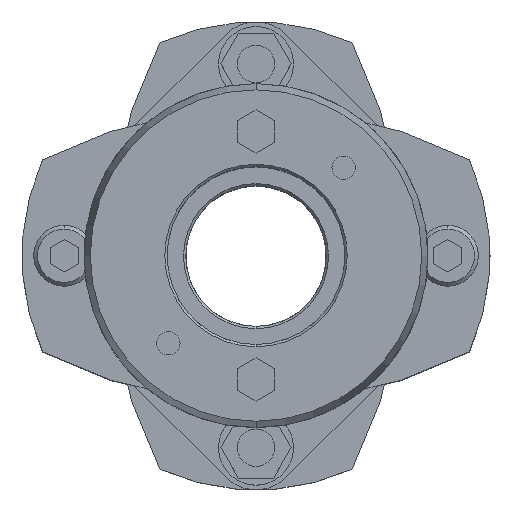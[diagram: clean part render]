
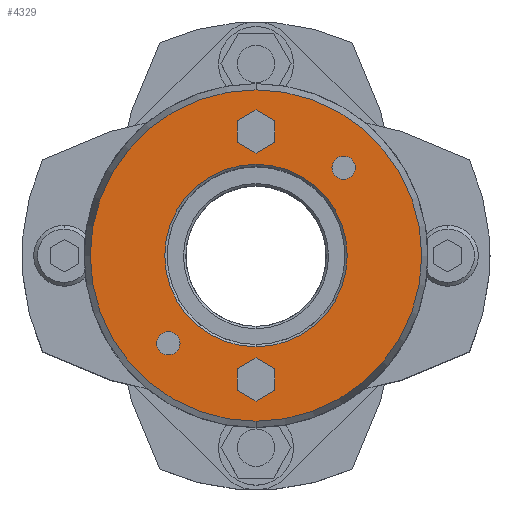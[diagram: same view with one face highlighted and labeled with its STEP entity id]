
A CAD part, top view. The second image highlights one B-rep face of the part: STEP entity #4329.
In plain terms, the highlighted planar face has unit normal (0, 0, 1).
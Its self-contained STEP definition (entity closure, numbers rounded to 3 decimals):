
#2291=CARTESIAN_POINT('',(0.,19.5,55.5));
#2292=VERTEX_POINT('',#2291);
#2308=CARTESIAN_POINT('',(0.,-19.5,55.5));
#2309=VERTEX_POINT('',#2308);
#2316=CARTESIAN_POINT('',(0.,0.,55.5));
#2317=DIRECTION('',(0.0,0.0,1.0));
#2318=DIRECTION('',(0.0,1.0,0.0));
#2319=AXIS2_PLACEMENT_3D('',#2316,#2317,#2318);
#2320=CIRCLE('',#2319,19.5);
#2321=EDGE_CURVE('',#2309,#2292,#2320,.T.);
#2437=CARTESIAN_POINT('',(0.,-35.41,55.5));
#2438=VERTEX_POINT('',#2437);
#2447=CARTESIAN_POINT('',(0.,35.41,55.5));
#2448=VERTEX_POINT('',#2447);
#2449=CARTESIAN_POINT('',(0.,0.,55.5));
#2450=DIRECTION('',(0.0,0.0,-1.0));
#2451=DIRECTION('',(0.0,-1.0,0.0));
#2452=AXIS2_PLACEMENT_3D('',#2449,#2450,#2451);
#2453=CIRCLE('',#2452,35.41);
#2454=EDGE_CURVE('',#2438,#2448,#2453,.T.);
#2623=CARTESIAN_POINT('',(18.738,21.238,55.5));
#2624=VERTEX_POINT('',#2623);
#2640=CARTESIAN_POINT('',(18.738,16.238,55.5));
#2641=VERTEX_POINT('',#2640);
#2648=CARTESIAN_POINT('',(18.738,18.738,55.5));
#2649=DIRECTION('',(0.0,0.0,-1.0));
#2650=DIRECTION('',(0.0,1.0,0.0));
#2651=AXIS2_PLACEMENT_3D('',#2648,#2649,#2650);
#2652=CIRCLE('',#2651,2.5);
#2653=EDGE_CURVE('',#2624,#2641,#2652,.T.);
#2665=CARTESIAN_POINT('',(-18.738,-16.238,55.5));
#2666=VERTEX_POINT('',#2665);
#2682=CARTESIAN_POINT('',(-18.738,-21.238,55.5));
#2683=VERTEX_POINT('',#2682);
#2690=CARTESIAN_POINT('',(-18.738,-18.738,55.5));
#2691=DIRECTION('',(0.0,0.0,-1.0));
#2692=DIRECTION('',(0.0,1.0,0.0));
#2693=AXIS2_PLACEMENT_3D('',#2690,#2691,#2692);
#2694=CIRCLE('',#2693,2.5);
#2695=EDGE_CURVE('',#2666,#2683,#2694,.T.);
#3455=CARTESIAN_POINT('',(0.,-21.881,55.5));
#3456=VERTEX_POINT('',#3455);
#3463=CARTESIAN_POINT('',(-4.,-24.191,55.5));
#3464=VERTEX_POINT('',#3463);
#3465=CARTESIAN_POINT('',(-4.,-24.191,55.5));
#3466=DIRECTION('',(0.866,0.5,0.0));
#3467=VECTOR('',#3466,4.619);
#3468=LINE('',#3465,#3467);
#3469=EDGE_CURVE('',#3464,#3456,#3468,.T.);
#3493=CARTESIAN_POINT('',(4.,-24.191,55.5));
#3494=VERTEX_POINT('',#3493);
#3501=CARTESIAN_POINT('',(0.,-21.881,55.5));
#3502=DIRECTION('',(0.866,-0.5,0.0));
#3503=VECTOR('',#3502,4.619);
#3504=LINE('',#3501,#3503);
#3505=EDGE_CURVE('',#3456,#3494,#3504,.T.);
#3524=CARTESIAN_POINT('',(4.,-28.809,55.5));
#3525=VERTEX_POINT('',#3524);
#3532=CARTESIAN_POINT('',(4.,-24.191,55.5));
#3533=DIRECTION('',(0.0,-1.0,0.0));
#3534=VECTOR('',#3533,4.619);
#3535=LINE('',#3532,#3534);
#3536=EDGE_CURVE('',#3494,#3525,#3535,.T.);
#3555=CARTESIAN_POINT('',(0.,-31.119,55.5));
#3556=VERTEX_POINT('',#3555);
#3563=CARTESIAN_POINT('',(4.,-28.809,55.5));
#3564=DIRECTION('',(-0.866,-0.5,0.0));
#3565=VECTOR('',#3564,4.619);
#3566=LINE('',#3563,#3565);
#3567=EDGE_CURVE('',#3525,#3556,#3566,.T.);
#3586=CARTESIAN_POINT('',(-4.,-28.809,55.5));
#3587=VERTEX_POINT('',#3586);
#3594=CARTESIAN_POINT('',(0.,-31.119,55.5));
#3595=DIRECTION('',(-0.866,0.5,0.0));
#3596=VECTOR('',#3595,4.619);
#3597=LINE('',#3594,#3596);
#3598=EDGE_CURVE('',#3556,#3587,#3597,.T.);
#3616=CARTESIAN_POINT('',(-4.,-28.809,55.5));
#3617=DIRECTION('',(0.0,1.0,0.0));
#3618=VECTOR('',#3617,4.619);
#3619=LINE('',#3616,#3618);
#3620=EDGE_CURVE('',#3587,#3464,#3619,.T.);
#3655=CARTESIAN_POINT('',(0.,31.119,55.5));
#3656=VERTEX_POINT('',#3655);
#3663=CARTESIAN_POINT('',(-4.,28.809,55.5));
#3664=VERTEX_POINT('',#3663);
#3665=CARTESIAN_POINT('',(-4.,28.809,55.5));
#3666=DIRECTION('',(0.866,0.5,0.0));
#3667=VECTOR('',#3666,4.619);
#3668=LINE('',#3665,#3667);
#3669=EDGE_CURVE('',#3664,#3656,#3668,.T.);
#3693=CARTESIAN_POINT('',(4.,28.809,55.5));
#3694=VERTEX_POINT('',#3693);
#3701=CARTESIAN_POINT('',(0.,31.119,55.5));
#3702=DIRECTION('',(0.866,-0.5,0.0));
#3703=VECTOR('',#3702,4.619);
#3704=LINE('',#3701,#3703);
#3705=EDGE_CURVE('',#3656,#3694,#3704,.T.);
#3724=CARTESIAN_POINT('',(4.,24.191,55.5));
#3725=VERTEX_POINT('',#3724);
#3732=CARTESIAN_POINT('',(4.,28.809,55.5));
#3733=DIRECTION('',(0.0,-1.0,0.0));
#3734=VECTOR('',#3733,4.619);
#3735=LINE('',#3732,#3734);
#3736=EDGE_CURVE('',#3694,#3725,#3735,.T.);
#3755=CARTESIAN_POINT('',(0.,21.881,55.5));
#3756=VERTEX_POINT('',#3755);
#3763=CARTESIAN_POINT('',(4.,24.191,55.5));
#3764=DIRECTION('',(-0.866,-0.5,0.0));
#3765=VECTOR('',#3764,4.619);
#3766=LINE('',#3763,#3765);
#3767=EDGE_CURVE('',#3725,#3756,#3766,.T.);
#3786=CARTESIAN_POINT('',(-4.,24.191,55.5));
#3787=VERTEX_POINT('',#3786);
#3794=CARTESIAN_POINT('',(0.,21.881,55.5));
#3795=DIRECTION('',(-0.866,0.5,0.0));
#3796=VECTOR('',#3795,4.619);
#3797=LINE('',#3794,#3796);
#3798=EDGE_CURVE('',#3756,#3787,#3797,.T.);
#3816=CARTESIAN_POINT('',(-4.,24.191,55.5));
#3817=DIRECTION('',(0.0,1.0,0.0));
#3818=VECTOR('',#3817,4.619);
#3819=LINE('',#3816,#3818);
#3820=EDGE_CURVE('',#3787,#3664,#3819,.T.);
#3846=CARTESIAN_POINT('',(-18.738,-18.738,55.5));
#3847=DIRECTION('',(0.0,0.0,-1.0));
#3848=DIRECTION('',(0.0,1.0,0.0));
#3849=AXIS2_PLACEMENT_3D('',#3846,#3847,#3848);
#3850=CIRCLE('',#3849,2.5);
#3851=EDGE_CURVE('',#2683,#2666,#3850,.T.);
#3880=CARTESIAN_POINT('',(18.738,18.738,55.5));
#3881=DIRECTION('',(0.0,0.0,-1.0));
#3882=DIRECTION('',(0.0,1.0,0.0));
#3883=AXIS2_PLACEMENT_3D('',#3880,#3881,#3882);
#3884=CIRCLE('',#3883,2.5);
#3885=EDGE_CURVE('',#2641,#2624,#3884,.T.);
#4276=CARTESIAN_POINT('',(0.,0.,55.5));
#4277=DIRECTION('',(0.0,0.0,-1.0));
#4278=DIRECTION('',(0.0,-1.0,0.0));
#4279=AXIS2_PLACEMENT_3D('',#4276,#4277,#4278);
#4280=CIRCLE('',#4279,35.41);
#4281=EDGE_CURVE('',#2448,#2438,#4280,.T.);
#4286=CARTESIAN_POINT('',(0.,3.341,55.5));
#4287=DIRECTION('',(0.0,0.0,1.0));
#4288=DIRECTION('',(0.0,1.0,0.0));
#4289=AXIS2_PLACEMENT_3D('',#4286,#4287,#4288);
#4290=PLANE('',#4289);
#4291=ORIENTED_EDGE('',*,*,#4281,.F.);
#4292=ORIENTED_EDGE('',*,*,#2454,.F.);
#4293=EDGE_LOOP('',(#4291,#4292));
#4294=FACE_OUTER_BOUND('',#4293,.T.);
#4295=ORIENTED_EDGE('',*,*,#3469,.T.);
#4296=ORIENTED_EDGE('',*,*,#3505,.T.);
#4297=ORIENTED_EDGE('',*,*,#3536,.T.);
#4298=ORIENTED_EDGE('',*,*,#3567,.T.);
#4299=ORIENTED_EDGE('',*,*,#3598,.T.);
#4300=ORIENTED_EDGE('',*,*,#3620,.T.);
#4301=EDGE_LOOP('',(#4295,#4296,#4297,#4298,#4299,#4300));
#4302=FACE_BOUND('',#4301,.T.);
#4303=ORIENTED_EDGE('',*,*,#3669,.T.);
#4304=ORIENTED_EDGE('',*,*,#3705,.T.);
#4305=ORIENTED_EDGE('',*,*,#3736,.T.);
#4306=ORIENTED_EDGE('',*,*,#3767,.T.);
#4307=ORIENTED_EDGE('',*,*,#3798,.T.);
#4308=ORIENTED_EDGE('',*,*,#3820,.T.);
#4309=EDGE_LOOP('',(#4303,#4304,#4305,#4306,#4307,#4308));
#4310=FACE_BOUND('',#4309,.T.);
#4311=ORIENTED_EDGE('',*,*,#2695,.T.);
#4312=ORIENTED_EDGE('',*,*,#3851,.T.);
#4313=EDGE_LOOP('',(#4311,#4312));
#4314=FACE_BOUND('',#4313,.T.);
#4315=ORIENTED_EDGE('',*,*,#2653,.T.);
#4316=ORIENTED_EDGE('',*,*,#3885,.T.);
#4317=EDGE_LOOP('',(#4315,#4316));
#4318=FACE_BOUND('',#4317,.T.);
#4319=ORIENTED_EDGE('',*,*,#2321,.F.);
#4320=CARTESIAN_POINT('',(0.,0.,55.5));
#4321=DIRECTION('',(0.0,0.0,1.0));
#4322=DIRECTION('',(0.0,1.0,0.0));
#4323=AXIS2_PLACEMENT_3D('',#4320,#4321,#4322);
#4324=CIRCLE('',#4323,19.5);
#4325=EDGE_CURVE('',#2292,#2309,#4324,.T.);
#4326=ORIENTED_EDGE('',*,*,#4325,.F.);
#4327=EDGE_LOOP('',(#4319,#4326));
#4328=FACE_BOUND('',#4327,.T.);
#4329=ADVANCED_FACE('',(#4294,#4302,#4310,#4314,#4318,#4328),#4290,.T.);
